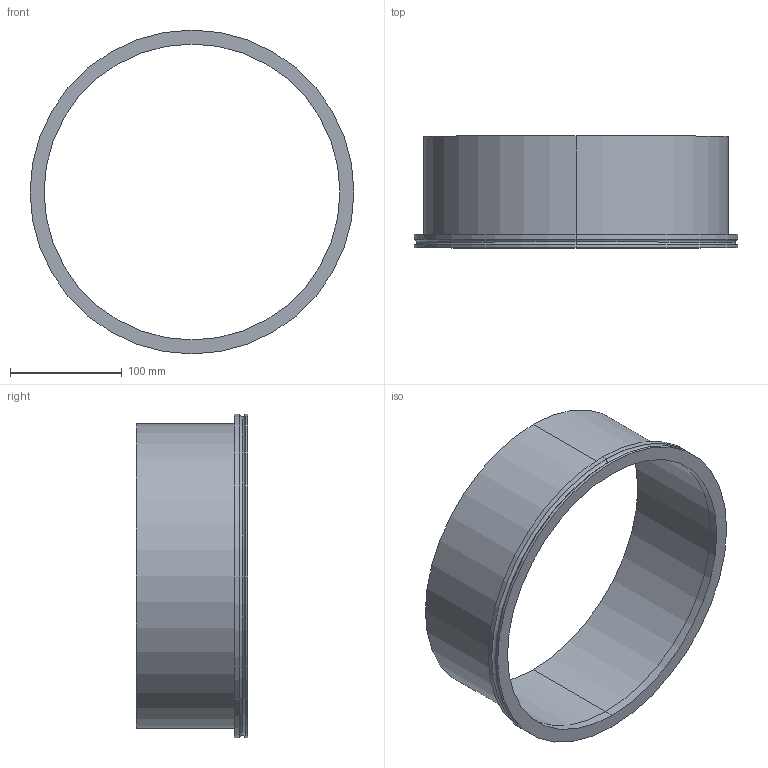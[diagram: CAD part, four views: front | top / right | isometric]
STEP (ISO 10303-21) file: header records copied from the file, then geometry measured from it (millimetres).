
FILE_DESCRIPTION (( 'STEP AP214' ), '1' );
FILE_NAME ('W4KR250.STEP', '2019-04-05T08:32:52', ( '' ), ( '' ), 'SwSTEP 2.0', 'SolidWorks 2018', '' );
FILE_SCHEMA (( 'AUTOMOTIVE_DESIGN' ));
Length unit declared in the file: millimetre
Products named in the file (1): W4KR250
Bounding box: 290 x 100 x 290 mm (x, y, z)
Volume: 407946.1 mm3; surface area: 207678.6 mm2
Topology: 2 solids, 2 shells, 24 faces, 48 edges, 30 vertices
Faces by surface type: cylinder 14, plane 6, torus 4
Entity records: 689 total; most frequent: DIRECTION 132, CARTESIAN_POINT 103, ORIENTED_EDGE 96, AXIS2_PLACEMENT_3D 59, EDGE_CURVE 48, CIRCLE 34, EDGE_LOOP 30, VERTEX_POINT 30
